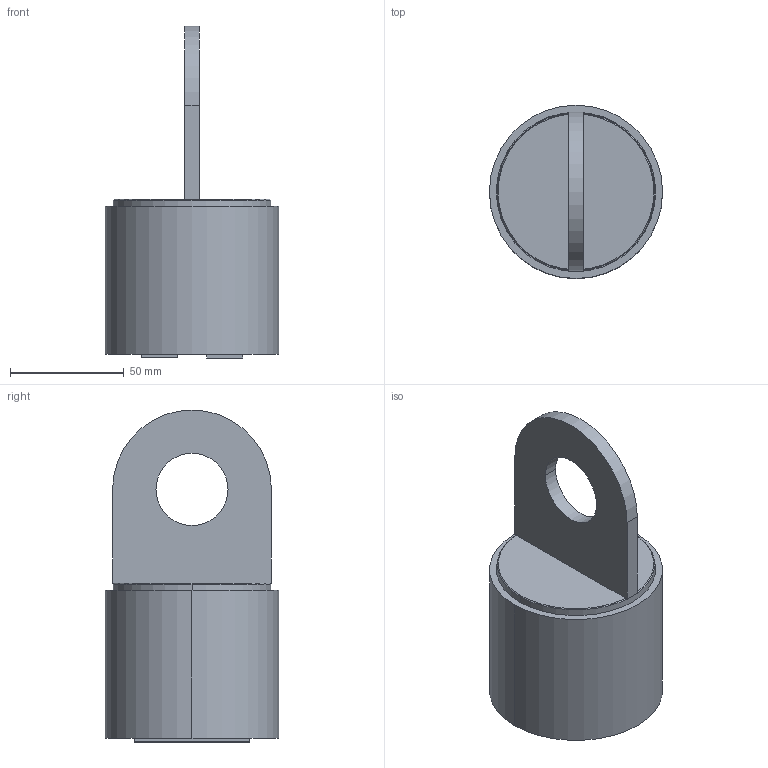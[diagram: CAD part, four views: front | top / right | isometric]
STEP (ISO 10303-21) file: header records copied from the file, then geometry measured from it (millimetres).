
FILE_DESCRIPTION (( 'STEP AP203' ), '1' );
FILE_NAME ('HDR3045.STEP', '2018-08-20T17:34:53', ( '' ), ( '' ), 'SwSTEP 2.0', 'SolidWorks 2015', '' );
FILE_SCHEMA (( 'CONFIG_CONTROL_DESIGN' ));
Length unit declared in the file: inch
Products named in the file (1): HDR3045
Bounding box: 76.2 x 76.2 x 146.05 mm (x, y, z)
Volume: 425610.4 mm3; surface area: 90275.8 mm2
Topology: 6 solids, 6 shells, 38 faces, 74 edges, 48 vertices
Faces by surface type: plane 23, cylinder 11, cone 4
Entity records: 1049 total; most frequent: DIRECTION 178, CARTESIAN_POINT 161, ORIENTED_EDGE 148, EDGE_CURVE 74, AXIS2_PLACEMENT_3D 65, LINE 48, VERTEX_POINT 48, VECTOR 48
